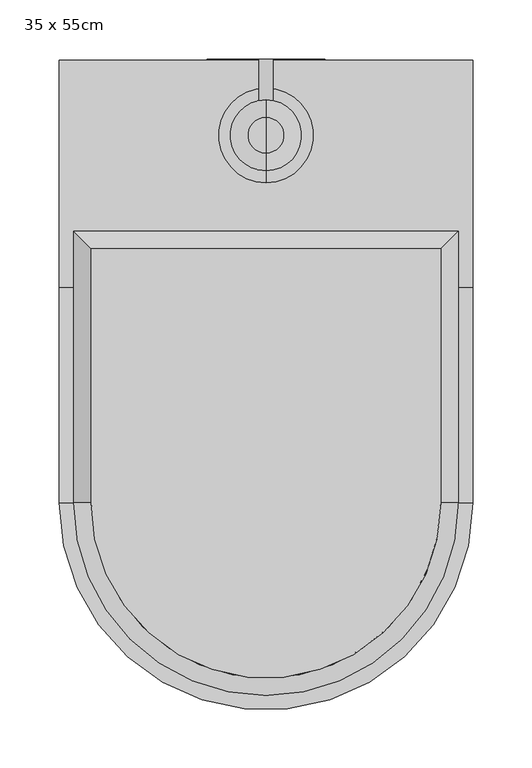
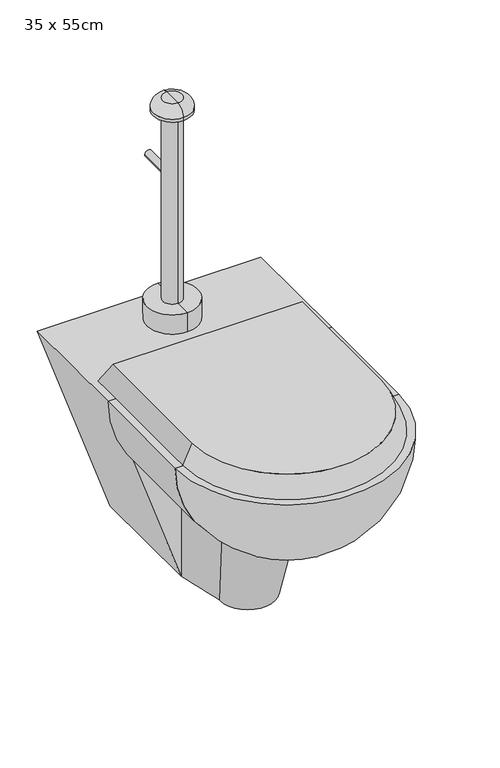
"""IFC4 building model written with IfcOpenShell, lengths in millimetres: flow terminal geometry, WC AP-Druckspüler : 35 x 55cm."""

from ifc_helpers import new_model, si_unit, point, frame, frame_2d, origin, place, context, project, spatial, polyline, circle_curve, ellipse_curve, trimmed, segment, composite_curve, outline, extrude, source, transform, mapped, element, save
from ifc_brep_helpers import plane_surface, cylinder_surface, revolved_surface, spline_surface, advanced_brep


def flow_terminal_35_x_55cm_6441f3d0(model_context):
    return source(origin(), model_context, "Body", "SolidModel", [
        advanced_brep(
        [(0.0, -49.3333333, 732.0), (0.0, -79.3333333, 732.0), (0.0, -64.3333333, 732.0), (0.0, -34.3333333, 717.0), (0.0, -94.3333333, 717.0), (0.0, -34.3333333, 712.0), (0.0, -94.3333333, 712.0), (0.0, -49.3333333, 712.0), (0.0, -79.3333333, 712.0), (0.0, -49.3333333, 400.0), (0.0, -79.3333333, 400.0), (0.0, -24.3333333, 400.0), (0.0, -104.3333333, 400.0), (0.0, -24.3333333, 368.0), (0.0, -104.3333333, 368.0), (0.0, -64.3333333, 368.0)],
        [
            (0, 1, circle_curve(frame((0.0, -64.3333333, 732.0), z_axis=(0.0, 0.0, 1.0), x_axis=(0.0, -1.0, 0.0)), 15.0)),
            (1, 2),
            (2, 0),
            (1, 0, circle_curve(frame((0.0, -64.3333333, 732.0), z_axis=(0.0, 0.0, 1.0), x_axis=(0.0, -1.0, 0.0)), 15.0)),
            (3, 4, circle_curve(frame((0.0, -64.3333333, 717.0), z_axis=(0.0, 0.0, 1.0), x_axis=(0.0, -1.0, 0.0)), 30.0)),
            (4, 1, circle_curve(frame((0.0, -79.3333333, 717.0), z_axis=(-1.0, 0.0, 0.0), x_axis=(0.0, 1.0, 0.0)), 15.0)),
            (0, 3, circle_curve(frame((0.0, -49.3333333, 717.0), z_axis=(-1.0, 0.0, 0.0), x_axis=(0.0, -1.0, 0.0)), 15.0)),
            (4, 3, circle_curve(frame((0.0, -64.3333333, 717.0), z_axis=(0.0, 0.0, 1.0), x_axis=(0.0, -1.0, 0.0)), 30.0)),
            (5, 6, circle_curve(frame((0.0, -64.3333333, 712.0), z_axis=(0.0, 0.0, 1.0), x_axis=(0.0, -1.0, 0.0)), 30.0)),
            (6, 4),
            (3, 5),
            (6, 5, circle_curve(frame((0.0, -64.3333333, 712.0), z_axis=(0.0, 0.0, 1.0), x_axis=(0.0, -1.0, 0.0)), 30.0)),
            (7, 8, circle_curve(frame((0.0, -64.3333333, 712.0), z_axis=(0.0, 0.0, 1.0), x_axis=(0.0, -1.0, 0.0)), 15.0)),
            (8, 6),
            (5, 7),
            (8, 7, circle_curve(frame((0.0, -64.3333333, 712.0), z_axis=(0.0, 0.0, 1.0), x_axis=(0.0, -1.0, 0.0)), 15.0)),
            (9, 10, circle_curve(frame((0.0, -64.3333333, 400.0), z_axis=(0.0, 0.0, 1.0), x_axis=(0.0, -1.0, 0.0)), 15.0)),
            (10, 8),
            (7, 9),
            (10, 9, circle_curve(frame((0.0, -64.3333333, 400.0), z_axis=(0.0, 0.0, 1.0), x_axis=(0.0, -1.0, 0.0)), 15.0)),
            (11, 12, circle_curve(frame((0.0, -64.3333333, 400.0), z_axis=(0.0, 0.0, 1.0), x_axis=(0.0, -1.0, 0.0)), 40.0)),
            (12, 10),
            (9, 11),
            (12, 11, circle_curve(frame((0.0, -64.3333333, 400.0), z_axis=(0.0, 0.0, 1.0), x_axis=(0.0, -1.0, 0.0)), 40.0)),
            (13, 14, circle_curve(frame((0.0, -64.3333333, 368.0), z_axis=(0.0, 0.0, 1.0), x_axis=(0.0, -1.0, 0.0)), 40.0)),
            (14, 12),
            (11, 13),
            (14, 13, circle_curve(frame((0.0, -64.3333333, 368.0), z_axis=(0.0, 0.0, 1.0), x_axis=(0.0, -1.0, 0.0)), 40.0)),
            (15, 14),
            (13, 15),
        ],
        [
            plane_surface(frame((0.0, -64.3333333, 732.0), z_axis=(0.0, 0.0, 1.0), x_axis=(0.0, -1.0, 0.0))),
            revolved_surface(trimmed(ellipse_curve(frame((0.0, -79.3333333, 717.0), z_axis=(1.0, 0.0, 0.0), x_axis=(0.0, 1.0, 0.0)), 15.0, 15.0), [point((0.0, -79.3333333, 732.0))], [point((0.0, -94.3333333, 717.0))], True, "CARTESIAN"), (0.0, -64.3333333, 782.0718601), (0.0, 0.0, -1.0)),
            cylinder_surface(frame((0.0, -64.3333333, 782.0718601), z_axis=(0.0, 0.0, -1.0), x_axis=(0.0, -1.0, 0.0)), 30.0),
            plane_surface(frame((0.0, -64.3333333, 712.0), z_axis=(0.0, 0.0, -1.0), x_axis=(0.0, -1.0, 0.0))),
            cylinder_surface(frame((0.0, -64.3333333, 782.0718601), z_axis=(0.0, 0.0, -1.0), x_axis=(0.0, -1.0, 0.0)), 15.0),
            plane_surface(frame((0.0, -64.3333333, 400.0), z_axis=(0.0, 0.0, 1.0), x_axis=(0.0, -1.0, 0.0))),
            cylinder_surface(frame((0.0, -64.3333333, 782.0718601), z_axis=(0.0, 0.0, -1.0), x_axis=(0.0, -1.0, 0.0)), 40.0),
            plane_surface(frame((0.0, -64.3333333, 368.0), z_axis=(0.0, 0.0, -1.0), x_axis=(0.0, -1.0, 0.0))),
        ],
        [
            (0, [[1, 2, 3]]),
            (0, [[4, -3, -2]]),
            (1, [[5, 6, -1, 7]]),
            (1, [[8, -7, -4, -6]]),
            (2, [[9, 10, -5, 11]]),
            (2, [[12, -11, -8, -10]]),
            (3, [[13, 14, -9, 15]]),
            (3, [[16, -15, -12, -14]]),
            (4, [[17, 18, -13, 19]]),
            (4, [[20, -19, -16, -18]]),
            (5, [[21, 22, -17, 23]]),
            (5, [[24, -23, -20, -22]]),
            (6, [[25, 26, -21, 27]]),
            (6, [[28, -27, -24, -26]]),
            (7, [[29, -25, 30]]),
            (7, [[-30, -28, -29]]),
        ],
    ),
        extrude(outline(composite_curve([segment(trimmed(circle_curve(frame_2d((368.0, 0.0)), 175.0), [point((368.0, -175.0))], [point((193.0, 0.0))], False, "CARTESIAN"), True, "CONTINUOUS"), segment(trimmed(circle_curve(frame_2d((368.0, 0.0)), 175.0), [point((193.0, 0.0))], [point((368.0, 175.0))], False, "CARTESIAN"), True, "CONTINUOUS"), segment(polyline([(368.0, 175.0), (368.0, -175.0)]), True, "CONTINUOUS")], self_intersect=False)), frame((0.0, -375.0, 0.0), z_axis=(0.0, 1.0, 0.0), x_axis=(0.0, 0.0, 1.0)), (0.0, 0.0, 1.0), 182.0),
        advanced_brep(
        [(0.0, -375.0, 193.0), (0.0, -375.0, 368.0), (175.0, -375.0, 368.0), (-175.0, -375.0, 368.0)],
        [
            (0, 1),
            (1, 2),
            (2, 0, circle_curve(frame((0.0, -375.0, 368.0), z_axis=(0.0, 1.0, 0.0), x_axis=(-1.0, 0.0, 0.0)), 175.0)),
            (0, 3, circle_curve(frame((0.0, -375.0, 368.0), z_axis=(0.0, 1.0, 0.0), x_axis=(1.0, 0.0, 0.0)), 175.0)),
            (3, 1),
            (3, 2, circle_curve(frame((0.0, -375.0, 368.0), z_axis=(0.0, 0.0, 1.0), x_axis=(1.0, 0.0, 0.0)), 175.0)),
        ],
        [
            plane_surface(frame((0.0, -375.0, 154.6737292), z_axis=(0.0, 1.0, 0.0), x_axis=(1.0, 0.0, 0.0))),
            plane_surface(frame((0.0, -375.0, 154.6737292), z_axis=(0.0, 1.0, 0.0), x_axis=(-1.0, 0.0, 0.0))),
            plane_surface(frame((0.0, -375.0, 368.0), z_axis=(0.0, 0.0, 1.0), x_axis=(1.0, 0.0, 0.0))),
            revolved_surface(trimmed(ellipse_curve(frame((0.0, -375.0, 368.0), z_axis=(0.0, 1.0, 0.0), x_axis=(-1.0, 0.0, 0.0)), 175.0, 175.0), [point((175.0, -375.0, 368.0))], [point((0.0, -375.0, 193.0))], True, "CARTESIAN"), (0.0, -375.0, 154.6737292), (0.0, 0.0, -1.0)),
        ],
        [
            (0, [[1, 2, 3]]),
            (1, [[4, 5, -1]]),
            (2, [[6, -2, -5]]),
            (3, [[-3, -6, -4]]),
        ],
    ),
        extrude(outline(polyline([(38.0, -60.3448276), (38.0, 60.3448276), (368.0, 175.0), (368.0, -175.0), (38.0, -60.3448276)])), frame((0.0, -193.0, 0.0), z_axis=(0.0, 1.0, 0.0), x_axis=(0.0, 0.0, 1.0)), (0.0, 0.0, 1.0), 192.0),
        advanced_brep(
        [(-148.0, -375.0, 400.0), (148.0, -375.0, 400.0), (148.0, -160.0, 400.0), (-148.0, -160.0, 400.0), (-163.0, -375.0, 368.0), (-163.0, -145.0, 368.0), (163.0, -145.0, 368.0), (163.0, -375.0, 368.0)],
        [
            (0, 1, circle_curve(frame((0.0, -375.0, 400.0), z_axis=(0.0, 0.0, 1.0), x_axis=(-1.0, 0.0, 0.0)), 148.0)),
            (1, 2),
            (2, 3),
            (3, 0),
            (4, 5),
            (5, 6),
            (6, 7),
            (7, 4, circle_curve(frame((0.0, -375.0, 368.0), z_axis=(0.0, 0.0, -1.0), x_axis=(-1.0, 0.0, 0.0)), 163.0)),
            (7, 1),
            (0, 4),
            (6, 2),
            (5, 3),
        ],
        [
            plane_surface(frame((0.0, -267.5, 400.0), z_axis=(0.0, 0.0, 1.0), x_axis=(0.0, -1.0, 0.0))),
            plane_surface(frame((0.0, -260.0, 368.0), z_axis=(0.0, 0.0, -1.0), x_axis=(0.0, -1.0, 0.0))),
            revolved_surface(polyline([(-147.99999999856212, -375.0, 400.0), (-163.0, -375.0, 368.0)]), (0.0, -375.0, 715.7333333), (0.0, 0.0, -1.0)),
            plane_surface(frame((163.0, -260.0, 368.0), z_axis=(0.9054589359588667, 0.0, 0.42443387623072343), x_axis=(0.0, 1.0, 0.0))),
            plane_surface(frame((0.0, -145.0, 368.0), z_axis=(0.0, 0.9054589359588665, 0.42443387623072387), x_axis=(-1.0, 0.0, 0.0))),
            plane_surface(frame((-163.0, -260.0, 368.0), z_axis=(-0.9054589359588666, 0.0, 0.4244338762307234), x_axis=(0.0, -1.0, 0.0))),
        ],
        [
            (0, [[1, 2, 3, 4]]),
            (1, [[5, 6, 7, 8]]),
            (2, [[-8, 9, -1, 10]]),
            (3, [[-7, 11, -2, -9]]),
            (4, [[-6, 12, -3, -11]]),
            (5, [[-5, -10, -4, -12]]),
        ],
    ),
        advanced_brep(
        [(-60.3448276, -306.3218391, 225.0), (60.3448276, -306.3218391, 225.0), (60.3448276, -193.0, 225.0), (-60.3448276, -193.0, 225.0), (-43.2471264, -268.4195402, 38.0), (-60.3448276, -193.0, 38.0), (60.3448276, -193.0, 38.0), (43.2471264, -268.4195402, 38.0)],
        [
            (0, 1, circle_curve(frame((0.0, -306.3218391, 225.0), z_axis=(0.0, 0.0, 1.0), x_axis=(1.0, 0.0, 0.0)), 60.3448276)),
            (1, 2),
            (2, 3),
            (3, 0),
            (4, 5),
            (5, 6),
            (6, 7),
            (7, 4, circle_curve(frame((0.0, -268.4195402, 38.0), z_axis=(0.0, 0.0, -1.0), x_axis=(1.0, 0.0, 0.0)), 43.2471264)),
            (7, 1),
            (0, 4),
            (6, 2),
            (5, 3),
        ],
        [
            plane_surface(frame((0.0, -249.6609195, 225.0), z_axis=(0.0, 0.0, 1.0), x_axis=(0.0, -1.0, 0.0))),
            plane_surface(frame((0.0, -230.7097701, 38.0), z_axis=(0.0, 0.0, -1.0), x_axis=(0.0, -1.0, 0.0))),
            spline_surface(2, 1, [[(-43.2471264, -268.4195402, 38.0), (-60.3448276, -306.3218391, 225.0)], [(-43.2471264, -311.6666666, 38.0), (-60.3448276, -366.66666669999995, 225.0)], [(0.0, -311.6666666, 38.0), (0.0, -366.66666669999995, 225.0)], [(43.2471264, -311.6666666, 38.0), (60.3448276, -366.66666669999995, 225.0)], [(43.2471264, -268.4195402, 38.0), (60.3448276, -306.3218391, 225.0)]], [3, 2, 3], [2, 2], [0.0, 1.0, 2.0], [0.0, 1.0], weights=[[1.0, 1.0], [0.7071067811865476, 0.7071067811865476], [1.0, 1.0], [0.7071067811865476, 0.7071067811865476], [1.0, 1.0]]),
            spline_surface(1, 1, [[(43.2471264, -268.4195402, 38.0), (60.3448276, -306.3218391, 225.0)], [(60.3448276, -193.0, 38.0), (60.3448276, -193.0, 225.0)]], [2, 2], [2, 2], [0.0, 1.0], [0.0, 1.0]),
            plane_surface(frame((0.0, -193.0, 38.0), z_axis=(0.0, 1.0, 0.0), x_axis=(-1.0, 0.0, 0.0))),
            spline_surface(1, 1, [[(-60.3448276, -193.0, 38.0), (-60.3448276, -193.0, 225.0)], [(-43.2471264, -268.4195402, 38.0), (-60.3448276, -306.3218391, 225.0)]], [2, 2], [2, 2], [0.0, 1.0], [0.0, 1.0]),
        ],
        [
            (0, [[1, 2, 3, 4]]),
            (1, [[5, 6, 7, 8]]),
            (2, [[-8, 9, -1, 10]]),
            (3, [[-7, 11, -2, -9]]),
            (4, [[-6, 12, -3, -11]]),
            (5, [[-5, -10, -4, -12]]),
        ],
    ),
        extrude(outline(composite_curve([segment(trimmed(circle_curve(frame_2d((600.0, 0.0)), 6.0), [point((600.0, -6.0))], [point((600.0, 6.0))], False, "CARTESIAN"), True, "CONTINUOUS"), segment(trimmed(circle_curve(frame_2d((600.0, 0.0)), 6.0), [point((600.0, 6.0))], [point((600.0, -6.0))], False, "CARTESIAN"), True, "CONTINUOUS")], self_intersect=False)), frame((0.0, -64.3333333, 0.0), z_axis=(0.0, 1.0, 0.0), x_axis=(0.0, 0.0, 1.0)), (0.0, 0.0, 1.0), 64.3333333),
        extrude(outline(composite_curve([segment(trimmed(circle_curve(frame_2d((148.0, 0.0)), 50.0), [point((148.0, -50.0))], [point((148.0, 50.0))], False, "CARTESIAN"), True, "CONTINUOUS"), segment(trimmed(circle_curve(frame_2d((148.0, 0.0)), 50.0), [point((148.0, 50.0))], [point((148.0, -50.0))], False, "CARTESIAN"), True, "CONTINUOUS")], self_intersect=False)), frame((0.0, -1.0, 0.0), z_axis=(0.0, 1.0, 0.0), x_axis=(0.0, 0.0, 1.0)), (0.0, 0.0, 1.0), 1.0),
    ])


if __name__ == "__main__":
    model = new_model("IFC4")
    model_context = context("Model", 3, world=origin())
    ifc_project = project(units=[si_unit("LENGTHUNIT", "METRE", prefix="MILLI")], contexts=[model_context])
    site = spatial("IfcSite", under=ifc_project)
    building = spatial("IfcBuilding", under=site)
    placement = place(None, origin())
    flow_terminal_35_x_55cm_shape = flow_terminal_35_x_55cm_6441f3d0(model_context)
    element("IfcFlowTerminal", 1, ObjectType="WC AP-Druckspüler : 35 x 55cm", at=placement, inside=building, context=model_context, shape_type="MappedRepresentation", body=[
        mapped(flow_terminal_35_x_55cm_shape, transform((0.0, 0.0, 0.0), x_axis=(1.0, 0.0, 0.0), y_axis=(0.0, 1.0, 0.0), z_axis=(0.0, 0.0, 1.0))),
    ])
    save(model, "model.ifc")
